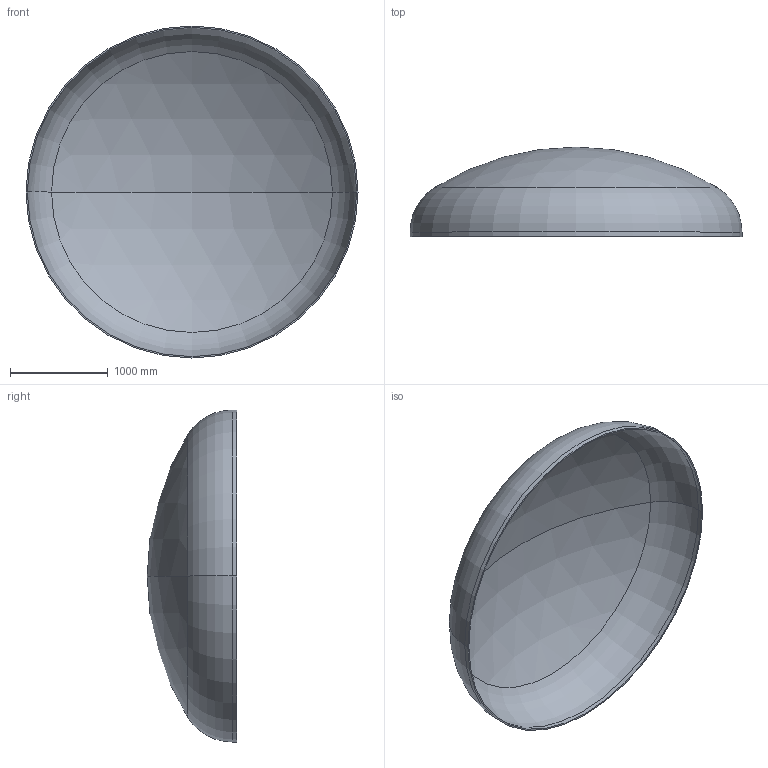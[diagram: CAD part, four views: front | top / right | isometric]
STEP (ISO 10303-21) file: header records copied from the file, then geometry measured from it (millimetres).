
FILE_DESCRIPTION (( 'STEP AP203' ), '1' );
FILE_NAME ('DIN 28013 Korbbogenform_-_Boden DIN 28013 - 3400 x 45 - I - s=14.step', '2016-07-01T19:12:22', ( '' ), ( '' ), 'SwSTEP 2.0', 'SolidWorks 2013', '' );
FILE_SCHEMA (( 'CONFIG_CONTROL_DESIGN' ));
Length unit declared in the file: millimetre
Products named in the file (1): DIN 28013 Korbbogenform_-_Boden DIN 28013 - 3400 x 45 - I - s=14
Bounding box: 3400 x 916.18 x 3400 mm (x, y, z)
Volume: 181889507 mm3; surface area: 26133539.5 mm2
Topology: 1 solids, 1 shells, 13 faces, 24 edges, 14 vertices
Faces by surface type: torus 4, cylinder 4, sphere 4, plane 1
Entity records: 407 total; most frequent: DIRECTION 72, CARTESIAN_POINT 52, ORIENTED_EDGE 48, AXIS2_PLACEMENT_3D 34, EDGE_CURVE 24, CIRCLE 20, VERTEX_POINT 14, EDGE_LOOP 14
